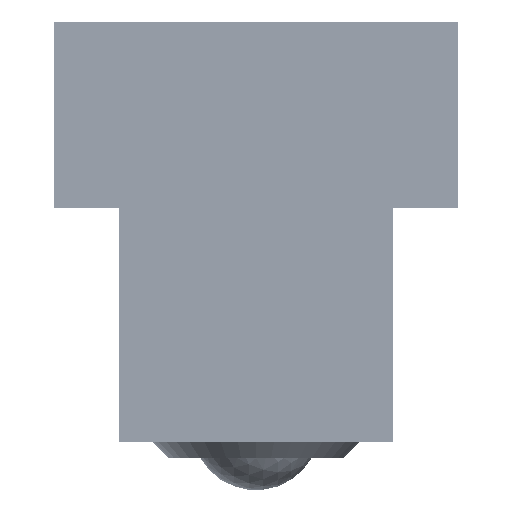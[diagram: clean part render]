
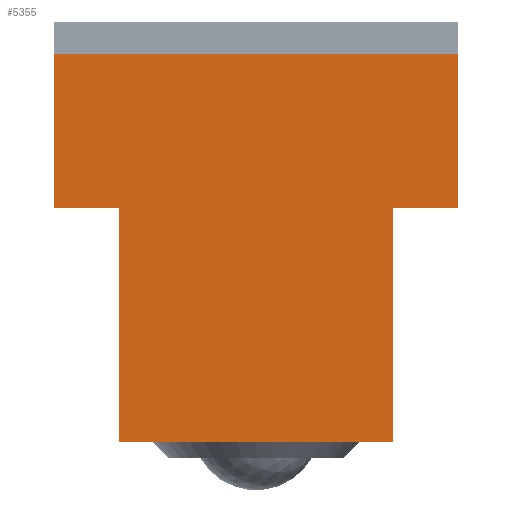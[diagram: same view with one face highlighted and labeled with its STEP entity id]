
A CAD part, left-side view. The second image highlights one B-rep face of the part: STEP entity #5355.
In plain terms, the highlighted planar face has unit normal (-1, 0, 0) as drawn and (0, 0, -1) by its records, which use the part's own axes.
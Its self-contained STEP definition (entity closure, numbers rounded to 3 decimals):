
#560=LINE('',#8533,#808);
#565=LINE('',#8543,#813);
#572=LINE('',#8569,#820);
#579=LINE('',#8583,#827);
#582=LINE('',#8587,#830);
#583=LINE('',#8589,#831);
#584=LINE('',#8592,#832);
#586=LINE('',#8595,#834);
#808=VECTOR('',#6882,14.5);
#813=VECTOR('',#6889,4.);
#820=VECTOR('',#6918,14.5);
#827=VECTOR('',#6929,9.5);
#830=VECTOR('',#6934,4.);
#831=VECTOR('',#6937,17.);
#832=VECTOR('',#6940,9.5);
#834=VECTOR('',#6944,25.);
#1052=PLANE('',#5844);
#1693=FACE_OUTER_BOUND('',#2214,.T.);
#2214=EDGE_LOOP('',(#4339,#4340,#4341,#4342,#4343,#4344,#4345,#4346));
#2998=VERTEX_POINT('',#8530);
#2999=VERTEX_POINT('',#8532);
#3002=VERTEX_POINT('',#8540);
#3003=VERTEX_POINT('',#8542);
#3011=VERTEX_POINT('',#8568);
#3015=VERTEX_POINT('',#8581);
#3016=VERTEX_POINT('',#8582);
#3017=VERTEX_POINT('',#8591);
#3496=EDGE_CURVE('',#2998,#2999,#560,.T.);
#3501=EDGE_CURVE('',#3002,#3003,#565,.T.);
#3512=EDGE_CURVE('',#3003,#3011,#572,.T.);
#3519=EDGE_CURVE('',#3015,#3016,#579,.T.);
#3522=EDGE_CURVE('',#2999,#3015,#582,.T.);
#3523=EDGE_CURVE('',#3011,#2998,#583,.T.);
#3524=EDGE_CURVE('',#3017,#3002,#584,.T.);
#3526=EDGE_CURVE('',#3016,#3017,#586,.T.);
#4339=ORIENTED_EDGE('',*,*,#3526,.F.);
#4340=ORIENTED_EDGE('',*,*,#3519,.F.);
#4341=ORIENTED_EDGE('',*,*,#3522,.F.);
#4342=ORIENTED_EDGE('',*,*,#3496,.F.);
#4343=ORIENTED_EDGE('',*,*,#3523,.F.);
#4344=ORIENTED_EDGE('',*,*,#3512,.F.);
#4345=ORIENTED_EDGE('',*,*,#3501,.F.);
#4346=ORIENTED_EDGE('',*,*,#3524,.F.);
#5355=ADVANCED_FACE('',(#1693),#1052,.F.);
#5844=AXIS2_PLACEMENT_3D('',#8596,#6945,#6946);
#6882=DIRECTION('',(0.,-1.,0.));
#6889=DIRECTION('',(-1.,0.,0.));
#6918=DIRECTION('',(0.,1.,0.));
#6929=DIRECTION('',(0.,-1.,0.));
#6934=DIRECTION('',(-1.,0.,0.));
#6937=DIRECTION('',(-1.,0.,0.));
#6940=DIRECTION('',(0.,1.,0.));
#6944=DIRECTION('',(1.,0.,0.));
#6945=DIRECTION('center_axis',(0.,0.,1.));
#6946=DIRECTION('ref_axis',(1.,0.,0.));
#8530=CARTESIAN_POINT('',(4.,24.,0.));
#8532=CARTESIAN_POINT('',(4.,9.5,0.));
#8533=CARTESIAN_POINT('',(4.,24.,0.));
#8540=CARTESIAN_POINT('',(25.,9.5,0.));
#8542=CARTESIAN_POINT('',(21.,9.5,0.));
#8543=CARTESIAN_POINT('',(25.,9.5,0.));
#8568=CARTESIAN_POINT('',(21.,24.,0.));
#8569=CARTESIAN_POINT('',(21.,9.5,0.));
#8581=CARTESIAN_POINT('',(0.,9.5,0.));
#8582=CARTESIAN_POINT('',(0.,0.,0.));
#8583=CARTESIAN_POINT('',(0.,9.5,0.));
#8587=CARTESIAN_POINT('',(4.,9.5,0.));
#8589=CARTESIAN_POINT('',(21.,24.,0.));
#8591=CARTESIAN_POINT('',(25.,0.,0.));
#8592=CARTESIAN_POINT('',(25.,0.,0.));
#8595=CARTESIAN_POINT('',(0.,0.,0.));
#8596=CARTESIAN_POINT('Origin',(12.5,10.816,0.));
